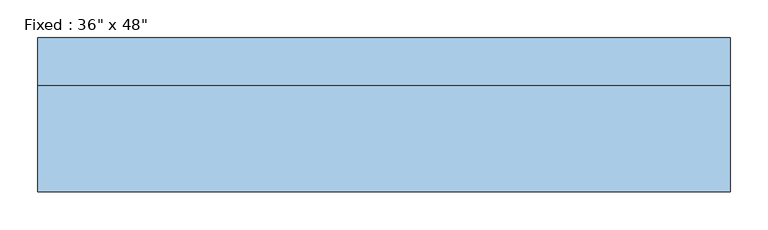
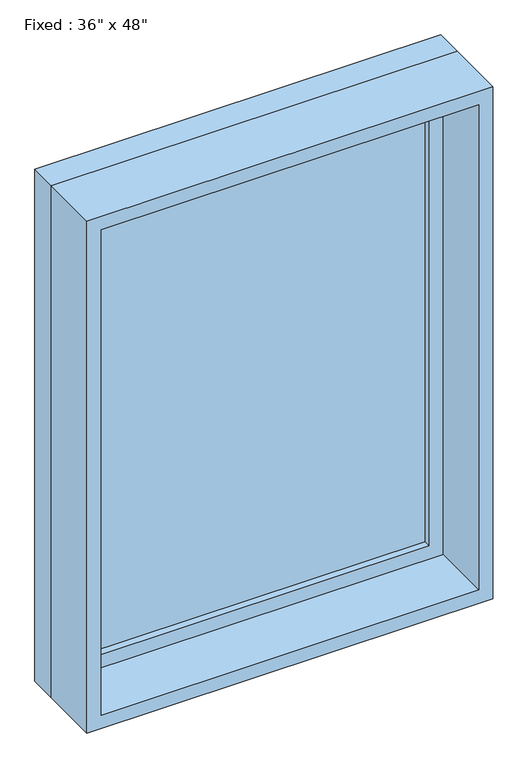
"""IFC4 building model written with IfcOpenShell, lengths in millimetres: window geometry."""

from ifc_helpers import new_model, si_unit, frame, origin, place, context, project, spatial, polyline, outline, extrude, source, transform, mapped, element, save


def window_e2841890(model_context):
    return source(origin(), model_context, "Body", "SweptSolid", [
        extrude(outline(polyline([(355.6, 53.975), (-431.8, 53.975), (-431.8, 66.675), (355.6, 66.675), (355.6, 53.975)])), frame((0.0, 0.0, 977.9), z_axis=(0.0, 0.0, 1.0), x_axis=(1.0, 0.0, 0.0)), (0.0, 0.0, 1.0), 1092.2),
        extrude(outline(polyline([(2114.55, -476.25), (933.45, -476.25), (933.45, 400.05), (2114.55, 400.05), (2114.55, -476.25)]), holes=[polyline([(2070.1, -431.8), (2070.1, 355.6), (977.9, 355.6), (977.9, -431.8), (2070.1, -431.8)])]), frame((0.0, 38.1, 0.0), z_axis=(0.0, 1.0, 0.0), x_axis=(0.0, 0.0, 1.0)), (0.0, 0.0, 1.0), 44.45),
        extrude(outline(polyline([(2133.6, -495.3), (914.4, -495.3), (914.4, 419.1), (2133.6, 419.1), (2133.6, -495.3)]), holes=[polyline([(2101.85, -463.55), (2101.85, 387.35), (946.15, 387.35), (946.15, -463.55), (2101.85, -463.55)])]), frame((0.0, -101.6, 0.0), z_axis=(0.0, 1.0, 0.0), x_axis=(0.0, 0.0, 1.0)), (0.0, 0.0, 1.0), 139.7),
        extrude(outline(polyline([(2133.6, 419.1), (2133.6, -495.3), (914.4, -495.3), (914.4, 419.1), (2133.6, 419.1)]), holes=[polyline([(2114.55, 400.05), (933.45, 400.05), (933.45, -476.25), (2114.55, -476.25), (2114.55, 400.05)])]), frame((0.0, 38.1, 0.0), z_axis=(0.0, 1.0, 0.0), x_axis=(0.0, 0.0, 1.0)), (0.0, 0.0, 1.0), 63.5),
    ])


if __name__ == "__main__":
    model = new_model("IFC4")
    model_context = context("Model", 3, world=origin())
    ifc_project = project(units=[si_unit("LENGTHUNIT", "METRE", prefix="MILLI")], contexts=[model_context])
    site = spatial("IfcSite", under=ifc_project)
    building = spatial("IfcBuilding", under=site)
    placement = place(None, origin())
    window_shape = window_e2841890(model_context)
    element("IfcWindow", 1, ObjectType="Fixed : 36\" x 48\"", at=placement, inside=building, context=model_context, shape_type="MappedRepresentation", body=[
        mapped(window_shape, transform((0.0, 0.0, 0.0), x_axis=(1.0, 0.0, 0.0), y_axis=(0.0, 1.0, 0.0), z_axis=(0.0, 0.0, 1.0))),
    ])
    save(model, "model.ifc")
